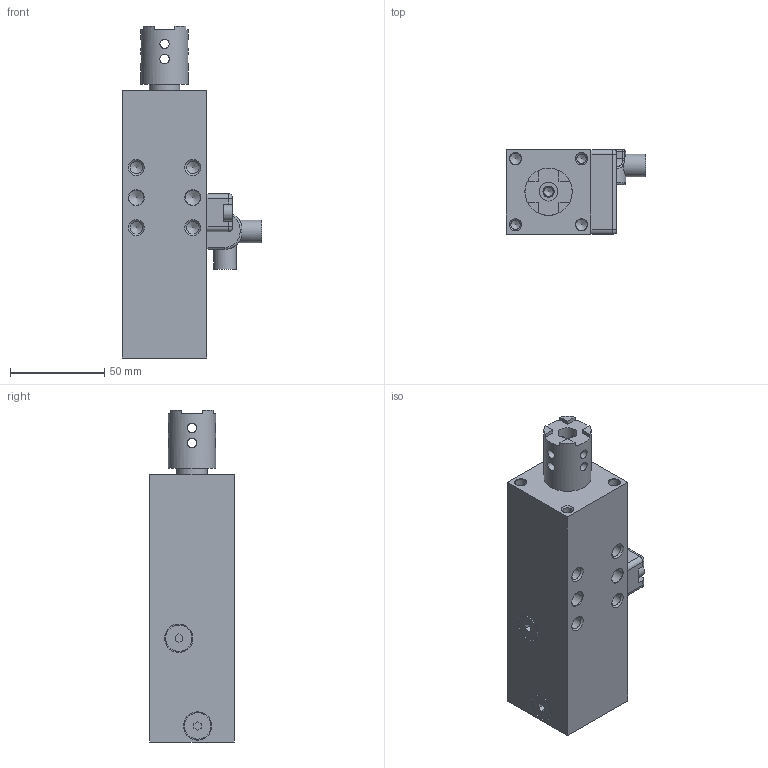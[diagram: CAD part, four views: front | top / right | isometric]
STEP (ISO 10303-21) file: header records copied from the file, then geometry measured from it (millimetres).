
FILE_DESCRIPTION(/* description */ (''),/* implementation_level */ '2;1');
FILE_NAME(/* name */ 'C:\PNX_VAULTFOLDER\Area Tecnica\Disegni\VARIE-3D\Componenti\7000\RP32######\RA32E20G2.stp',/* time_stamp */ '2018-10-30T11:32:07+01:00',/* author */ ('donadda1'),/* organization */ (''),/* preprocessor_version */ 'ST-DEVELOPER v17',/* originating_system */ 'Autodesk Inventor 2019',/* authorisation */ '');
FILE_SCHEMA (('AUTOMOTIVE_DESIGN { 1 0 10303 214 3 1 1 }'));
Length unit declared in the file: millimetre
Products named in the file (5): RA32E20G2; CENTRATORE_32-0020_DE; RA_ASTA_2-0040; ES001; ES001_CONN_90°
Assembly tree (4 placements, depth 2):
  RA32E20G2
    CENTRATORE_32-0020_DE
    RA_ASTA_2-0040
    ES001
    ES001_CONN_90°
Bounding box: 74.1 x 45 x 176 mm (x, y, z)
Volume: 323377.6 mm3; surface area: 61462.9 mm2
Topology: 4 solids, 4 shells, 272 faces, 717 edges, 484 vertices
Faces by surface type: plane 124, cylinder 91, cone 38, bspline 9, torus 8, sphere 2
Full cylindrical faces by diameter (mm): 4.134 x2, 4.917 x7, 5 x8, 5.489 x4, 6 x2, 6.647 x8, 8 x4, 8.5 x4, 8.566 x2, 10 x1, 12 x2, 14 x2, 15 x4, 16 x2, 25 x1
Entity records: 9347 total; most frequent: CARTESIAN_POINT 2284, DIRECTION 1469, ORIENTED_EDGE 1396, EDGE_CURVE 698, AXIS2_PLACEMENT_3D 555, VERTEX_POINT 484, LINE 359, VECTOR 359
